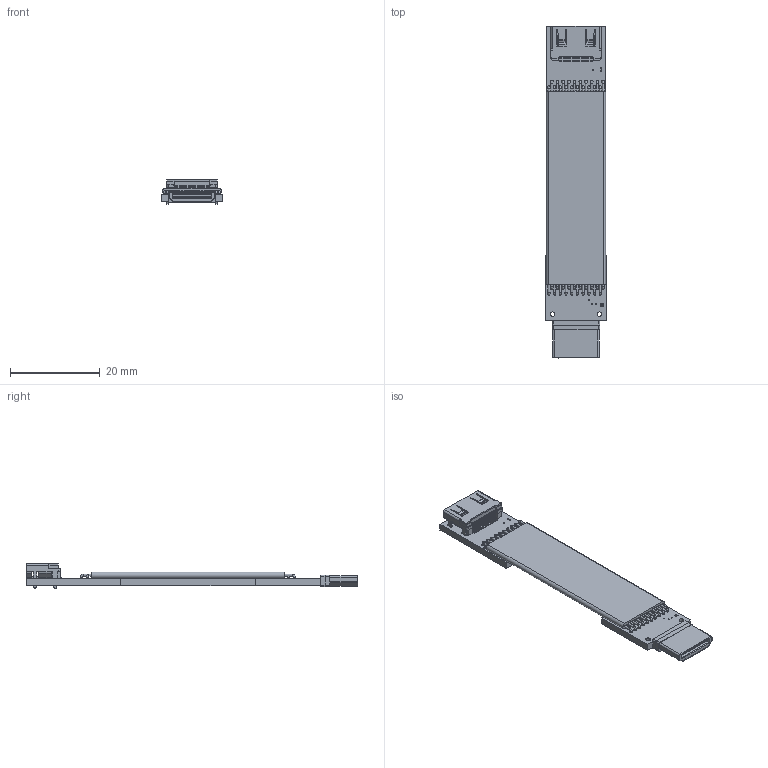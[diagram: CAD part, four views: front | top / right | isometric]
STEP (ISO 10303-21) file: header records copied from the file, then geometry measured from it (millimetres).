
FILE_DESCRIPTION(('Open CASCADE Model'),'2;1');
FILE_NAME('Open CASCADE Shape Model','2022-06-09T21:12:47',('Author'),( 'Open CASCADE'),'Open CASCADE STEP processor 6.8','Open CASCADE 6.8' ,'Unknown');
FILE_SCHEMA(('AUTOMOTIVE_DESIGN { 1 0 10303 214 1 1 1 1 }'));
Length unit declared in the file: millimetre
Products named in the file (50): PCB; Board; Open CASCADE STEP translator 6.8 11.1.1; _1; HC4; Open CASCADE STEP translator 6.8 11.3; miniHDMI-p_RGB10275833; HDMI_type_C1; Free-Models; cable20-43-s
Assembly tree (50 placements, depth 3):
  PCB
    Board
      Open CASCADE STEP translator 6.8 11.1.1
    _1
      HC4
    Open CASCADE STEP translator 6.8 11.3
      miniHDMI-p_RGB10275833  x2
      HDMI_type_C1
    Free-Models
      cable20-43-s
      cable20-43-s
      cable20-43-s
      cable20-43-s
      cable20-43-s
      cable20-43-s
      cable20-43-s
      cable20-43-s
      cable20-43-s
      cable20-43-s
      cable20-43-s
      cable20-43-s
      cable20-43-s
      cable20-43-s
      cable20-43-s
      cable20-43-s
      cable20-43-s
      cable20-43-s
      cable20-43-s
      cable20-43-s
      cable20-43-s
      cable20-43-s
      cable20-43-s
      cable20-43-s
      cable20-43-s
      cable20-43-s
      cable20-43-s
      cable20-43-s
      cable20-43-s
      cable20-43-s
      cable20-43-s
      cable20-43-s
      cable20-43-s
      cable20-43-s
      cable20-43-s
      cable20-43-s
      cable20-43-s
      cable20-43-s
      cable20-43-s
      cable20-43-s
      cable20-43-s
Bounding box: 13.4 x 73.85 x 5.45 mm (x, y, z)
Volume: 1704.2 mm3; surface area: 5033.2 mm2
Topology: 67 solids, 67 shells, 1269 faces, 3262 edges, 2106 vertices
Faces by surface type: plane 780, cylinder 415, torus 46, bspline 24, sphere 4
Full cylindrical faces by diameter (mm): 0.254 x12, 0.4 x100, 0.55 x20, 0.6 x20, 1 x2
Entity records: 45465 total; most frequent: CARTESIAN_POINT 7904, ORIENTED_EDGE 6468, DIRECTION 6412, EDGE_CURVE 3234, LINE 2212, VECTOR 2212, AXIS2_PLACEMENT_3D 2100, VERTEX_POINT 2090
